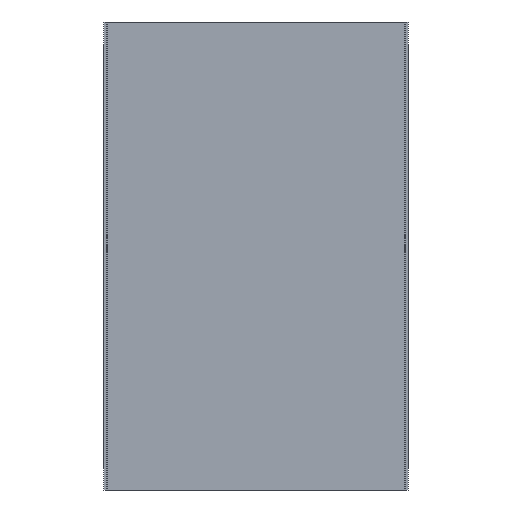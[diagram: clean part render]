
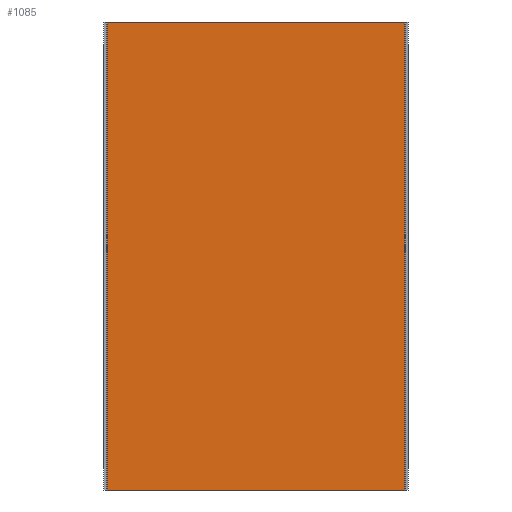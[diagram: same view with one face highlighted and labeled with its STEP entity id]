
A CAD part, front view. The second image highlights one B-rep face of the part: STEP entity #1085.
In plain terms, the highlighted planar face has unit normal (0, -1, 0).
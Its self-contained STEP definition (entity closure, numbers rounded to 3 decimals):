
#26 = CARTESIAN_POINT ( 'NONE',  ( -317.5, -68.25, -500. ) ) ;
#80 = VERTEX_POINT ( 'NONE', #976 ) ;
#85 = ORIENTED_EDGE ( 'NONE', *, *, #347, .T. ) ;
#116 = VERTEX_POINT ( 'NONE', #805 ) ;
#124 = DIRECTION ( 'NONE',  ( 0., 0., -1. ) ) ;
#209 = LINE ( 'NONE', #756, #864 ) ;
#305 = CARTESIAN_POINT ( 'NONE',  ( -317.5, -68.25, 500. ) ) ;
#320 = DIRECTION ( 'NONE',  ( -1., 0., 0. ) ) ;
#331 = DIRECTION ( 'NONE',  ( 1., 0., 0. ) ) ;
#347 = EDGE_CURVE ( 'NONE', #80, #116, #1001, .T. ) ;
#372 = EDGE_CURVE ( 'NONE', #544, #80, #892, .T. ) ;
#383 = VECTOR ( 'NONE', #331, 1000. ) ;
#410 = EDGE_CURVE ( 'NONE', #544, #1142, #821, .T. ) ;
#417 = VECTOR ( 'NONE', #124, 1000. ) ;
#476 = EDGE_CURVE ( 'NONE', #1142, #116, #209, .T. ) ;
#514 = ORIENTED_EDGE ( 'NONE', *, *, #410, .F. ) ;
#529 = CARTESIAN_POINT ( 'NONE',  ( -317.5, -68.25, 500. ) ) ;
#544 = VERTEX_POINT ( 'NONE', #684 ) ;
#557 = CARTESIAN_POINT ( 'NONE',  ( -317.5, -68.25, 500. ) ) ;
#610 = PLANE ( 'NONE',  #673 ) ;
#647 = DIRECTION ( 'NONE',  ( 0., 0., -1. ) ) ;
#673 = AXIS2_PLACEMENT_3D ( 'NONE', #305, #811, #320 ) ;
#681 = CARTESIAN_POINT ( 'NONE',  ( 317.5, -68.25, 500. ) ) ;
#684 = CARTESIAN_POINT ( 'NONE',  ( -317.5, -68.25, 500. ) ) ;
#690 = EDGE_LOOP ( 'NONE', ( #85, #769, #514, #927 ) ) ;
#756 = CARTESIAN_POINT ( 'NONE',  ( 317.5, -68.25, 500. ) ) ;
#769 = ORIENTED_EDGE ( 'NONE', *, *, #476, .F. ) ;
#805 = CARTESIAN_POINT ( 'NONE',  ( 317.5, -68.25, -500. ) ) ;
#811 = DIRECTION ( 'NONE',  ( 0., 1., 0. ) ) ;
#821 = LINE ( 'NONE', #557, #1092 ) ;
#864 = VECTOR ( 'NONE', #647, 1000. ) ;
#892 = LINE ( 'NONE', #529, #417 ) ;
#927 = ORIENTED_EDGE ( 'NONE', *, *, #372, .T. ) ;
#976 = CARTESIAN_POINT ( 'NONE',  ( -317.5, -68.25, -500. ) ) ;
#1001 = LINE ( 'NONE', #26, #383 ) ;
#1015 = FACE_OUTER_BOUND ( 'NONE', #690, .T. ) ;
#1044 = DIRECTION ( 'NONE',  ( 1., 0., 0. ) ) ;
#1085 = ADVANCED_FACE ( 'NONE', ( #1015 ), #610, .F. ) ;
#1092 = VECTOR ( 'NONE', #1044, 1000. ) ;
#1142 = VERTEX_POINT ( 'NONE', #681 ) ;
